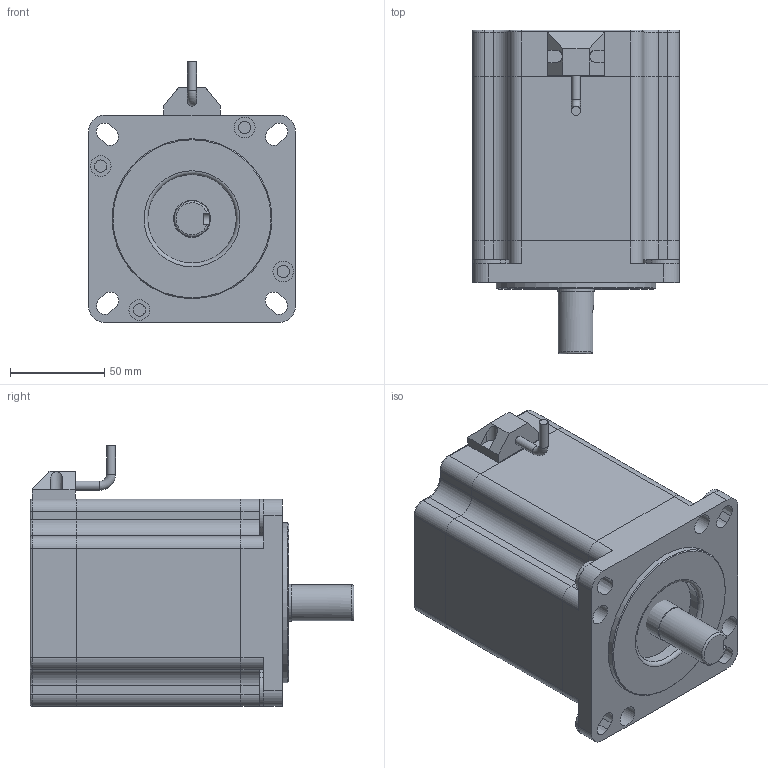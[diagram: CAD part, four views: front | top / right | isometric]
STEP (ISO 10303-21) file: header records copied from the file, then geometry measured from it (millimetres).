
FILE_DESCRIPTION(/* description */ (''),/* implementation_level */ '2;1');
FILE_NAME(/* name */ '110BYG250B.stp',/* time_stamp */ '2024-08-15T16:25:11+08:00',/* author */ (''),/* organization */ (''),/* preprocessor_version */ 'ST-DEVELOPER v18.1',/* originating_system */ 'SIEMENS PLM Software NX 2000',/* authorisation */ '');
FILE_SCHEMA (('AUTOMOTIVE_DESIGN { 1 0 10303 214 3 1 1 1 }'));
Length unit declared in the file: millimetre
Products named in the file (1): 110BYG250B电机外形图
Bounding box: 110 x 172 x 138.44 mm (x, y, z)
Volume: 1435121.2 mm3; surface area: 140644.3 mm2
Topology: 6 solids, 6 shells, 226 faces, 573 edges, 367 vertices
Faces by surface type: plane 104, cylinder 98, torus 15, cone 9
Full cylindrical faces by diameter (mm): 4.8 x2, 6.5 x12, 11 x4, 19 x1, 19.7 x1, 20 x1, 47 x1, 85 x1
Entity records: 6806 total; most frequent: DIRECTION 1210, CARTESIAN_POINT 1195, ORIENTED_EDGE 1082, EDGE_CURVE 541, AXIS2_PLACEMENT_3D 445, VERTEX_POINT 361, LINE 320, VECTOR 320
